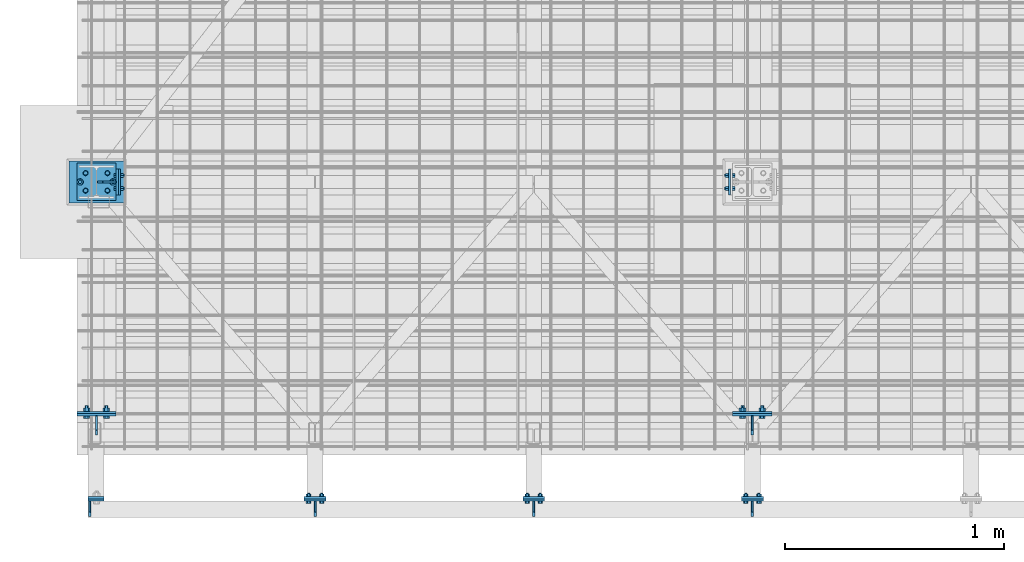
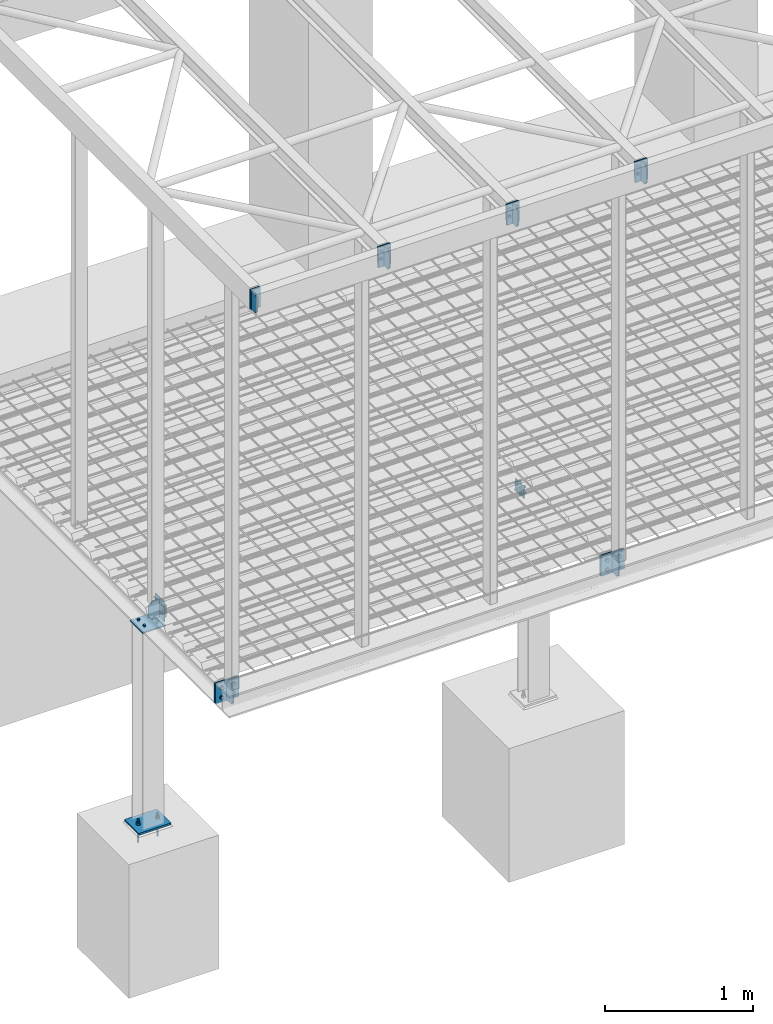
# One storey, part 16 of 26: 24 discrete accessories, 9 mechanical fasteners, 10 elements without a shape of their own.
"""IFC2X3 building model written with IfcOpenShell, lengths in millimetres."""

from ifc_helpers import new_model, si_unit, frame, frame_2d, origin_with_axes, origin_2d_with_axis, place, context, subcontext, project, spatial, polyline, circle_curve, parameter, trimmed, segment, composite_curve, circle, outline, extrude, source, transform, mapped, material, type_object, element, aggregate, save


model = new_model("IFC2X3")

# Units and contexts
model_context = context("Model", 3, precision=1e-05, world=origin_with_axes())
body_context = subcontext(model_context, "Body", "Model", "MODEL_VIEW")
ifc_project = project(units=[si_unit("LENGTHUNIT", "METRE", prefix="MILLI"), si_unit("AREAUNIT", "SQUARE_METRE"), si_unit("VOLUMEUNIT", "CUBIC_METRE"), si_unit("MASSUNIT", "GRAM", prefix="KILO"), si_unit("TIMEUNIT", "SECOND"), si_unit("PLANEANGLEUNIT", "RADIAN"), si_unit("SOLIDANGLEUNIT", "STERADIAN"), si_unit("THERMODYNAMICTEMPERATUREUNIT", "DEGREE_CELSIUS"), si_unit("LUMINOUSINTENSITYUNIT", "LUMEN")], contexts=[model_context])

# Site, building, storey
site_placement = place(None, origin_with_axes())
site = spatial("IfcSite", under=ifc_project, at=site_placement, Name="Undefined", CompositionType="ELEMENT")
building_placement = place(site_placement, origin_with_axes())
building = spatial("IfcBuilding", under=site, at=building_placement, Name="Undefined", CompositionType="ELEMENT")
storey_placement = place(building_placement, origin_with_axes())
storey = spatial("IfcBuildingStorey", under=building, at=storey_placement, Name="Undefined", CompositionType="ELEMENT", Elevation=0.0)

# Assembly, mechanical fastener
assembly_1_placement = place(storey_placement, origin_with_axes())
assembly_1 = element("IfcElementAssembly", 1, at=assembly_1_placement, inside=storey, Name="Steel Assembly", AssemblyPlace="NOTDEFINED", PredefinedType="RIGID_FRAME")
ifc_material_1 = material(Name="Undefined")
discrete_accessory_type_1 = type_object("IfcDiscreteAccessoryType", Name="Bolt assembly")
shared_shape_1 = source(origin_with_axes(), body_context, "Body", "SweptSolid", [
    extrude(circle(Radius=9.0, at=origin_2d_with_axis()), frame((0.0, -15.0, 0.0), z_axis=(0.0, 1.0, 0.0), x_axis=(1.0, 0.0, 0.0)), (0.0, 0.0, 1.0), 15.1),
    extrude(outline(polyline([(7.73649338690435, 0.0), (3.86824669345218, 6.69999980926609), (-3.86824669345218, 6.69999980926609), (-7.73649338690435, 0.0), (-3.86824669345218, -6.69999980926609), (3.86824669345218, -6.69999980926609), (7.73649338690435, 0.0)])), frame((0.0, -147.0, 0.0), z_axis=(0.0, 1.0, 0.0), x_axis=(1.0, 0.0, 0.0)), (0.0, 0.0, 1.0), 132.0),
    extrude(circle(Radius=8.0, at=origin_2d_with_axis()), frame((0.0, -15.0, 0.0), z_axis=(0.0, 1.0, 0.0), x_axis=(1.0, 0.0, 0.0)), (0.0, 0.0, 1.0), 58.0),
    extrude(circle(Radius=15.0, at=origin_2d_with_axis()), frame((0.0, 0.0, 0.0), z_axis=(0.0, 1.0, 0.0), x_axis=(1.0, 0.0, 0.0)), (0.0, 0.0, 1.0), 3.0),
    extrude(outline(polyline([(15.4441197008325, 0.0), (7.72205985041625, 13.3750000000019), (-7.72205985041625, 13.3750000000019), (-15.4441197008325, 0.0), (-7.72205985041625, -13.3750000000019), (7.72205985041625, -13.3750000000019), (15.4441197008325, 0.0)])), frame((0.0, 3.0, 0.0), z_axis=(0.0, 1.0, 0.0), x_axis=(1.0, 0.0, 0.0)), (0.0, 0.0, 1.0), 13.0),
])
mechanical_fastener_1_placement = place(assembly_1_placement, frame((-25.0, 1260.0, -1975.0), z_axis=(0.0, -1.0, 0.0), x_axis=(1.0, 0.0, 0.0)))
mechanical_fastener_1 = element("IfcMechanicalFastener", 2, at=mechanical_fastener_1_placement, type_object=discrete_accessory_type_1, material=ifc_material_1, Name="Bolt assembly", NominalDiameter=16.0, NominalLength=58.0, context=body_context, shape_type="MappedRepresentation", body=[
    mapped(shared_shape_1, transform((0.0, 0.0, 0.0))),
    mapped(shared_shape_1, transform((150.0, 0.0, 0.0))),
])

# Assembly, mechanical fasteners
assembly_2_placement = place(storey_placement, origin_with_axes())
assembly_2 = element("IfcElementAssembly", 3, at=assembly_2_placement, inside=storey, Name="Steel Assembly", AssemblyPlace="NOTDEFINED", PredefinedType="RIGID_FRAME")
shared_shape_2 = source(origin_with_axes(), body_context, "Body", "SweptSolid", [
    extrude(circle(Radius=9.0, at=origin_2d_with_axis()), frame((0.0, -0.1, 0.0), z_axis=(0.0, 1.0, 0.0), x_axis=(1.0, 0.0, 0.0)), (0.0, 0.0, 1.0), 10.1),
    extrude(circle(Radius=9.0, at=origin_2d_with_axis()), frame((0.0, -9.9, 0.0), z_axis=(0.0, 1.0, 0.0), x_axis=(1.0, 0.0, 0.0)), (0.0, 0.0, 1.0), 10.0),
    extrude(outline(polyline([(13.85640646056, 0.0), (6.92820323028, 12.0000000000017), (-6.92820323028, 12.0000000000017), (-13.85640646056, 0.0), (-6.92820323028, -12.0000000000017), (6.92820323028, -12.0000000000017), (13.85640646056, 0.0)])), frame((0.0, -23.0, 0.0), z_axis=(0.0, 1.0, 0.0), x_axis=(1.0, 0.0, 0.0)), (0.0, 0.0, 1.0), 10.0),
    extrude(circle(Radius=8.0, at=origin_2d_with_axis()), frame((0.0, -13.0, 0.0), z_axis=(0.0, 1.0, 0.0), x_axis=(1.0, 0.0, 0.0)), (0.0, 0.0, 1.0), 50.0),
    extrude(circle(Radius=15.0, at=origin_2d_with_axis()), frame((0.0, -13.0, 0.0), z_axis=(0.0, 1.0, 0.0), x_axis=(1.0, 0.0, 0.0)), (0.0, 0.0, 1.0), 3.0),
    extrude(circle(Radius=15.0, at=origin_2d_with_axis()), frame((0.0, 10.0, 0.0), z_axis=(0.0, 1.0, 0.0), x_axis=(1.0, 0.0, 0.0)), (0.0, 0.0, 1.0), 3.0),
    extrude(outline(polyline([(15.4441197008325, 0.0), (7.72205985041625, 13.3750000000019), (-7.72205985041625, 13.3750000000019), (-15.4441197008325, 0.0), (-7.72205985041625, -13.3750000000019), (7.72205985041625, -13.3750000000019), (15.4441197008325, 0.0)])), frame((0.0, 13.0, 0.0), z_axis=(0.0, 1.0, 0.0), x_axis=(1.0, 0.0, 0.0)), (0.0, 0.0, 1.0), 13.0),
])
mechanical_fastener_2_placement = place(assembly_2_placement, frame((5.0, 200.0, -250.0), z_axis=(0.0, 0.0, 1.0), x_axis=(1.0, 0.0, 0.0)))
mechanical_fastener_2 = element("IfcMechanicalFastener", 4, at=mechanical_fastener_2_placement, type_object=discrete_accessory_type_1, material=ifc_material_1, Name="Bolt assembly", NominalDiameter=16.0, NominalLength=50.0, context=body_context, shape_type="MappedRepresentation", body=[
    mapped(shared_shape_2, transform((0.0, 0.0, -40.0))),
    mapped(shared_shape_2, transform((90.0, 0.0, -40.0))),
    mapped(shared_shape_2, transform((0.0, 0.0, 40.0))),
    mapped(shared_shape_2, transform((90.0, 0.0, 40.0))),
])
mechanical_fastener_3_placement = place(assembly_2_placement, frame((3005.0, 200.0, -250.0), z_axis=(0.0, 0.0, 1.0), x_axis=(1.0, 0.0, 0.0)))
mechanical_fastener_3 = element("IfcMechanicalFastener", 5, at=mechanical_fastener_3_placement, type_object=discrete_accessory_type_1, material=ifc_material_1, Name="Bolt assembly", NominalDiameter=16.0, NominalLength=50.0, context=body_context, shape_type="MappedRepresentation", body=[
    mapped(shared_shape_2, transform((0.0, 0.0, -40.0))),
    mapped(shared_shape_2, transform((90.0, 0.0, -40.0))),
    mapped(shared_shape_2, transform((0.0, 0.0, 40.0))),
    mapped(shared_shape_2, transform((90.0, 0.0, 40.0))),
])

# Assembly, discrete accessory
assembly_3_placement = place(storey_placement, origin_with_axes())
assembly_3 = element("IfcElementAssembly", 6, at=assembly_3_placement, inside=storey, Name="Steel Assembly", AssemblyPlace="NOTDEFINED", PredefinedType="RIGID_FRAME")
ifc_material_2 = material(Name="STEEL/S235JR")
discrete_accessory_type_2 = type_object("IfcDiscreteAccessoryType", Name="PLECH")
discrete_accessory_1_placement = place(assembly_3_placement, frame((19.5, -200.0, 3289.5), z_axis=(1.0, 0.0, 0.0), x_axis=(0.0, -1.0, 0.0)))
discrete_accessory_1 = element("IfcDiscreteAccessory", 7, at=discrete_accessory_1_placement, type_object=discrete_accessory_type_2, material=ifc_material_2, Name="PLECH", ObjectType="PL8*70", context=body_context, shape_type="SweptSolid", body=[
    extrude(outline(composite_curve([segment(polyline([(0.0, 0.0), (49.5, 0.0)]), True, "CONTINUOUS"), segment(trimmed(circle_curve(frame_2d((69.5, 0.0), x_axis=(-1.0, 0.0)), 20.0), [parameter(0.0)], [parameter(4.71238898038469)], False, "PARAMETER"), True, "CONTINUOUS"), segment(polyline([(69.5, 20.0), (69.5, 139.0)]), True, "CONTINUOUS"), segment(trimmed(circle_curve(frame_2d((69.5, 159.0), x_axis=(0.0, -1.0)), 20.0), [parameter(0.0)], [parameter(4.71238898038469)], False, "PARAMETER"), True, "CONTINUOUS"), segment(polyline([(49.5, 159.0), (-3.63797880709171e-12, 159.0), (0.0, 0.0)]), True, "DISCONTINUOUS")], self_intersect=False)), frame((0.0, 0.0, -4.0), z_axis=(0.0, 0.0, 1.0), x_axis=(1.0, 0.0, 0.0)), (0.0, 0.0, 1.0), 8.0),
])

assembly_4_placement = place(storey_placement, origin_with_axes())
assembly_4 = element("IfcElementAssembly", 8, at=assembly_4_placement, inside=storey, Name="Steel Assembly", AssemblyPlace="NOTDEFINED", PredefinedType="RIGID_FRAME")
discrete_accessory_2_placement = place(assembly_4_placement, frame((85.0, -185.0, 3130.0), z_axis=(0.0, -1.0, 0.0), x_axis=(0.0, 0.0, 1.0)))
discrete_accessory_2 = element("IfcDiscreteAccessory", 9, at=discrete_accessory_2_placement, type_object=discrete_accessory_type_2, material=ifc_material_2, Name="PLECH", ObjectType="PL10*75", context=body_context, shape_type="SweptSolid", body=[
    extrude(outline(polyline([(0.0, 0.0), (160.0, 0.0), (160.0, 75.0), (0.0, 75.0), (0.0, 0.0)])), frame((0.0, 0.0, -5.0), z_axis=(0.0, 0.0, 1.0), x_axis=(1.0, 0.0, 0.0)), (0.0, 0.0, 1.0), 10.0),
])
aggregate(assembly_4, [discrete_accessory_2])

# Discrete accessory
discrete_accessory_3_placement = place(assembly_3_placement, frame((85.0, -195.0, 3130.0), z_axis=(0.0, -1.0, 0.0), x_axis=(0.0, 0.0, 1.0)))
discrete_accessory_3 = element("IfcDiscreteAccessory", 10, at=discrete_accessory_3_placement, type_object=discrete_accessory_type_2, material=ifc_material_2, Name="PLECH", ObjectType="PL10*75", context=body_context, shape_type="SweptSolid", body=[
    extrude(outline(polyline([(0.0, 0.0), (160.0, 0.0), (160.0, 75.0), (0.0, 75.0), (0.0, 0.0)])), frame((0.0, 0.0, -5.0), z_axis=(0.0, 0.0, 1.0), x_axis=(1.0, 0.0, 0.0)), (0.0, 0.0, 1.0), 10.0),
])

discrete_accessory_4_placement = place(assembly_3_placement, frame((1050.0, -200.0, 3289.5), z_axis=(1.0, 0.0, 0.0), x_axis=(0.0, -1.0, 0.0)))
discrete_accessory_4 = element("IfcDiscreteAccessory", 11, at=discrete_accessory_4_placement, type_object=discrete_accessory_type_2, material=ifc_material_2, Name="PLECH", ObjectType="PL8*70", context=body_context, shape_type="SweptSolid", body=[
    extrude(outline(composite_curve([segment(polyline([(0.0, 0.0), (49.5, 0.0)]), True, "CONTINUOUS"), segment(trimmed(circle_curve(frame_2d((69.5, 0.0), x_axis=(-1.0, 0.0)), 20.0), [parameter(0.0)], [parameter(4.71238898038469)], False, "PARAMETER"), True, "CONTINUOUS"), segment(polyline([(69.5, 20.0), (69.5, 139.0)]), True, "CONTINUOUS"), segment(trimmed(circle_curve(frame_2d((69.5, 159.0), x_axis=(0.0, -1.0)), 20.0), [parameter(0.0)], [parameter(4.71238898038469)], False, "PARAMETER"), True, "CONTINUOUS"), segment(polyline([(49.5, 159.0), (-3.63797880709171e-12, 159.0), (0.0, 0.0)]), True, "DISCONTINUOUS")], self_intersect=False)), frame((0.0, 0.0, -4.0), z_axis=(0.0, 0.0, 1.0), x_axis=(1.0, 0.0, 0.0)), (0.0, 0.0, 1.0), 8.0),
])

# Assembly, discrete accessory
assembly_5_placement = place(storey_placement, origin_with_axes())
assembly_5 = element("IfcElementAssembly", 12, at=assembly_5_placement, inside=storey, Name="Steel Assembly", AssemblyPlace="NOTDEFINED", PredefinedType="RIGID_FRAME")
discrete_accessory_5_placement = place(assembly_5_placement, frame((1000.0, -185.0, 3166.5), z_axis=(0.0, 1.0, 0.0), x_axis=(0.0, 0.0, 1.0)))
discrete_accessory_5 = element("IfcDiscreteAccessory", 13, at=discrete_accessory_5_placement, type_object=discrete_accessory_type_2, material=ifc_material_2, Name="PLECH", ObjectType="PL10*100", context=body_context, shape_type="SweptSolid", body=[
    extrude(outline(polyline([(0.0, 0.0), (127.0, 0.0), (127.0, 100.0), (-9.09494701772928e-13, 100.0), (0.0, 0.0)])), frame((0.0, 0.0, -5.0), z_axis=(0.0, 0.0, 1.0), x_axis=(1.0, 0.0, 0.0)), (0.0, 0.0, 1.0), 10.0),
])
aggregate(assembly_5, [discrete_accessory_5])

# Discrete accessory
discrete_accessory_6_placement = place(assembly_3_placement, frame((1000.0, -195.0, 3127.5), z_axis=(0.0, 1.0, 0.0), x_axis=(0.0, 0.0, 1.0)))
discrete_accessory_6 = element("IfcDiscreteAccessory", 14, at=discrete_accessory_6_placement, type_object=discrete_accessory_type_2, material=ifc_material_2, Name="PLECH", ObjectType="PL10*100", context=body_context, shape_type="SweptSolid", body=[
    extrude(outline(polyline([(0.0, 0.0), (166.000015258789, 0.0), (166.000015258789, 100.0), (-9.09494701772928e-13, 100.0), (0.0, 0.0)])), frame((0.0, 0.0, -5.0), z_axis=(0.0, 0.0, 1.0), x_axis=(1.0, 0.0, 0.0)), (0.0, 0.0, 1.0), 10.0),
])

discrete_accessory_7_placement = place(assembly_3_placement, frame((2050.0, -200.0, 3289.5), z_axis=(1.0, 0.0, 0.0), x_axis=(0.0, -1.0, 0.0)))
discrete_accessory_7 = element("IfcDiscreteAccessory", 15, at=discrete_accessory_7_placement, type_object=discrete_accessory_type_2, material=ifc_material_2, Name="PLECH", ObjectType="PL8*70", context=body_context, shape_type="SweptSolid", body=[
    extrude(outline(composite_curve([segment(polyline([(0.0, 0.0), (49.5, 0.0)]), True, "CONTINUOUS"), segment(trimmed(circle_curve(frame_2d((69.5, 0.0), x_axis=(-1.0, 0.0)), 20.0), [parameter(0.0)], [parameter(4.71238898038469)], False, "PARAMETER"), True, "CONTINUOUS"), segment(polyline([(69.5, 20.0), (69.5, 139.0)]), True, "CONTINUOUS"), segment(trimmed(circle_curve(frame_2d((69.5, 159.0), x_axis=(0.0, -1.0)), 20.0), [parameter(0.0)], [parameter(4.71238898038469)], False, "PARAMETER"), True, "CONTINUOUS"), segment(polyline([(49.5, 159.0), (-3.63797880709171e-12, 159.0), (0.0, 0.0)]), True, "DISCONTINUOUS")], self_intersect=False)), frame((0.0, 0.0, -4.0), z_axis=(0.0, 0.0, 1.0), x_axis=(1.0, 0.0, 0.0)), (0.0, 0.0, 1.0), 8.0),
])

# Assembly, discrete accessory
assembly_6_placement = place(storey_placement, origin_with_axes())
assembly_6 = element("IfcElementAssembly", 16, at=assembly_6_placement, inside=storey, Name="Steel Assembly", AssemblyPlace="NOTDEFINED", PredefinedType="RIGID_FRAME")
discrete_accessory_8_placement = place(assembly_6_placement, frame((2000.0, -185.0, 3166.5), z_axis=(0.0, 1.0, 0.0), x_axis=(0.0, 0.0, 1.0)))
discrete_accessory_8 = element("IfcDiscreteAccessory", 17, at=discrete_accessory_8_placement, type_object=discrete_accessory_type_2, material=ifc_material_2, Name="PLECH", ObjectType="PL10*100", context=body_context, shape_type="SweptSolid", body=[
    extrude(outline(polyline([(0.0, 0.0), (127.0, 0.0), (127.0, 100.0), (-9.09494701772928e-13, 100.0), (0.0, 0.0)])), frame((0.0, 0.0, -5.0), z_axis=(0.0, 0.0, 1.0), x_axis=(1.0, 0.0, 0.0)), (0.0, 0.0, 1.0), 10.0),
])
aggregate(assembly_6, [discrete_accessory_8])

# Discrete accessory
discrete_accessory_9_placement = place(assembly_3_placement, frame((2000.0, -195.0, 3127.5), z_axis=(0.0, 1.0, 0.0), x_axis=(0.0, 0.0, 1.0)))
discrete_accessory_9 = element("IfcDiscreteAccessory", 18, at=discrete_accessory_9_placement, type_object=discrete_accessory_type_2, material=ifc_material_2, Name="PLECH", ObjectType="PL10*100", context=body_context, shape_type="SweptSolid", body=[
    extrude(outline(polyline([(0.0, 0.0), (166.000015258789, 0.0), (166.000015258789, 100.0), (-9.09494701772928e-13, 100.0), (0.0, 0.0)])), frame((0.0, 0.0, -5.0), z_axis=(0.0, 0.0, 1.0), x_axis=(1.0, 0.0, 0.0)), (0.0, 0.0, 1.0), 10.0),
])

discrete_accessory_10_placement = place(assembly_1_placement, frame((140.0, 1346.0, -345.0), z_axis=(0.0, 0.0, 1.0), x_axis=(-1.0, 0.0, 0.0)))
discrete_accessory_10 = element("IfcDiscreteAccessory", 19, at=discrete_accessory_10_placement, type_object=discrete_accessory_type_2, material=ifc_material_2, Name="PLECH", ObjectType="PL10*172", context=body_context, shape_type="SweptSolid", body=[
    extrude(outline(polyline([(0.0, 0.0), (180.0, 0.0), (180.0, 172.0), (0.0, 172.0), (0.0, 0.0)])), frame((0.0, 0.0, -5.0), z_axis=(0.0, 0.0, 1.0), x_axis=(1.0, 0.0, 0.0)), (0.0, 0.0, 1.0), 10.0),
])

discrete_accessory_11_placement = place(assembly_2_placement, frame((-40.0, 195.0, -168.0), z_axis=(0.0, 1.0, 0.0), x_axis=(1.0, 0.0, 0.0)))
discrete_accessory_11 = element("IfcDiscreteAccessory", 20, at=discrete_accessory_11_placement, type_object=discrete_accessory_type_2, material=ifc_material_2, Name="PLECH", ObjectType="PL10*164", context=body_context, shape_type="SweptSolid", body=[
    extrude(outline(polyline([(0.0, 0.0), (180.0, 0.0), (180.0, 164.0), (0.0, 164.0), (0.0, 0.0)])), frame((0.0, 0.0, -5.0), z_axis=(0.0, 0.0, 1.0), x_axis=(1.0, 0.0, 0.0)), (0.0, 0.0, 1.0), 10.0),
])

discrete_accessory_12_placement = place(assembly_2_placement, frame((50.0, 190.0, -174.0), z_axis=(1.0, 0.0, 0.0), x_axis=(0.0, -1.0, 0.0)))
discrete_accessory_12 = element("IfcDiscreteAccessory", 21, at=discrete_accessory_12_placement, type_object=discrete_accessory_type_2, material=ifc_material_2, Name="PLECH", ObjectType="PL8*86", context=body_context, shape_type="SweptSolid", body=[
    extrude(outline(composite_curve([segment(polyline([(0.0, 0.0), (65.75, 0.0)]), True, "CONTINUOUS"), segment(trimmed(circle_curve(frame_2d((85.75, 0.0), x_axis=(-1.0, 0.0)), 20.0), [parameter(0.0)], [parameter(4.71238898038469)], False, "PARAMETER"), True, "CONTINUOUS"), segment(polyline([(85.75, 20.0), (85.75, 132.0)]), True, "CONTINUOUS"), segment(trimmed(circle_curve(frame_2d((85.75, 152.0), x_axis=(0.0, -1.0)), 20.0), [parameter(0.0)], [parameter(4.71238898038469)], False, "PARAMETER"), True, "CONTINUOUS"), segment(polyline([(65.75, 152.0), (0.0, 152.0), (0.0, 0.0)]), True, "DISCONTINUOUS")], self_intersect=False)), frame((0.0, 0.0, -4.0), z_axis=(0.0, 0.0, 1.0), x_axis=(1.0, 0.0, 0.0)), (0.0, 0.0, 1.0), 8.0),
])

# Assembly, discrete accessory
assembly_7_placement = place(storey_placement, origin_with_axes())
assembly_7 = element("IfcElementAssembly", 22, at=assembly_7_placement, inside=storey, Name="Steel Assembly", AssemblyPlace="NOTDEFINED", PredefinedType="RIGID_FRAME")
discrete_accessory_13_placement = place(assembly_7_placement, frame((-40.0, 205.0, -168.0), z_axis=(0.0, 1.0, 0.0), x_axis=(1.0, 0.0, 0.0)))
discrete_accessory_13 = element("IfcDiscreteAccessory", 23, at=discrete_accessory_13_placement, type_object=discrete_accessory_type_2, material=ifc_material_2, Name="PLECH", ObjectType="PL10*164", context=body_context, shape_type="SweptSolid", body=[
    extrude(outline(polyline([(0.0, 0.0), (180.0, 0.0), (180.0, 164.0), (0.0, 164.0), (0.0, 0.0)])), frame((0.0, 0.0, -5.0), z_axis=(0.0, 0.0, 1.0), x_axis=(1.0, 0.0, 0.0)), (0.0, 0.0, 1.0), 10.0),
])

assembly_8_placement = place(storey_placement, origin_with_axes())
assembly_8 = element("IfcElementAssembly", 24, at=assembly_8_placement, inside=storey, Name="Steel Assembly", AssemblyPlace="NOTDEFINED", PredefinedType="RIGID_FRAME")
discrete_accessory_14_placement = place(assembly_8_placement, frame((155.0, 1200.0, -299.0), z_axis=(-1.0, 0.0, 0.0), x_axis=(0.0, 0.0, 1.0)))
discrete_accessory_14 = element("IfcDiscreteAccessory", 25, at=discrete_accessory_14_placement, type_object=discrete_accessory_type_2, material=ifc_material_2, Name="PLECH", ObjectType="PL10*98", context=body_context, shape_type="SweptSolid", body=[
    extrude(outline(polyline([(0.0, 0.0), (98.0, 4.54747350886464e-13), (98.0, 120.0), (0.0, 120.0), (0.0, 0.0)])), frame((0.0, 0.0, -5.0), z_axis=(0.0, 0.0, 1.0), x_axis=(1.0, 0.0, 0.0)), (0.0, 0.0, 1.0), 10.0),
])

# Discrete accessory
discrete_accessory_15_placement = place(assembly_7_placement, frame((140.0, 1260.0, -174.0), z_axis=(0.0, -1.0, 0.0), x_axis=(-1.0, 0.0, 0.0)))
discrete_accessory_15 = element("IfcDiscreteAccessory", 26, at=discrete_accessory_15_placement, type_object=discrete_accessory_type_2, material=ifc_material_2, Name="PLECH", ObjectType="PL8*86", context=body_context, shape_type="SweptSolid", body=[
    extrude(outline(composite_curve([segment(polyline([(0.0, 0.0), (60.5, 0.0)]), True, "CONTINUOUS"), segment(trimmed(circle_curve(frame_2d((85.5, 0.0), x_axis=(-1.0, 0.0)), 25.0), [parameter(0.0)], [parameter(4.71238898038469)], False, "PARAMETER"), True, "CONTINUOUS"), segment(polyline([(85.5, 25.0), (85.5, 127.0)]), True, "CONTINUOUS"), segment(trimmed(circle_curve(frame_2d((85.5, 152.0), x_axis=(0.0, -1.0)), 25.0), [parameter(0.0)], [parameter(4.71238898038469)], False, "PARAMETER"), True, "CONTINUOUS"), segment(polyline([(60.5, 152.0), (0.0, 152.0), (0.0, 0.0)]), True, "DISCONTINUOUS")], self_intersect=False)), frame((0.0, 0.0, -4.0), z_axis=(0.0, 0.0, 1.0), x_axis=(1.0, 0.0, 0.0)), (0.0, 0.0, 1.0), 8.0),
])

discrete_accessory_16_placement = place(assembly_7_placement, frame((145.0, 1200.0, -332.0), z_axis=(-1.0, 0.0, 0.0), x_axis=(0.0, 0.0, 1.0)))
discrete_accessory_16 = element("IfcDiscreteAccessory", 27, at=discrete_accessory_16_placement, type_object=discrete_accessory_type_2, material=ifc_material_2, Name="PLECH", ObjectType="PL10*120", context=body_context, shape_type="SweptSolid", body=[
    extrude(outline(polyline([(0.0, 0.0), (164.0, 4.54747350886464e-13), (164.0, 120.0), (0.0, 120.0), (0.0, 0.0)])), frame((0.0, 0.0, -5.0), z_axis=(0.0, 0.0, 1.0), x_axis=(1.0, 0.0, 0.0)), (0.0, 0.0, 1.0), 10.0),
])

discrete_accessory_17_placement = place(assembly_2_placement, frame((2960.0, 195.0, -168.0), z_axis=(0.0, 1.0, 0.0), x_axis=(1.0, 0.0, 0.0)))
discrete_accessory_17 = element("IfcDiscreteAccessory", 28, at=discrete_accessory_17_placement, type_object=discrete_accessory_type_2, material=ifc_material_2, Name="PLECH", ObjectType="PL10*164", context=body_context, shape_type="SweptSolid", body=[
    extrude(outline(polyline([(0.0, 0.0), (180.0, 0.0), (180.0, 164.0), (0.0, 164.0), (0.0, 0.0)])), frame((0.0, 0.0, -5.0), z_axis=(0.0, 0.0, 1.0), x_axis=(1.0, 0.0, 0.0)), (0.0, 0.0, 1.0), 10.0),
])

discrete_accessory_18_placement = place(assembly_2_placement, frame((3050.0, 190.0, -174.0), z_axis=(1.0, 0.0, 0.0), x_axis=(0.0, -1.0, 0.0)))
discrete_accessory_18 = element("IfcDiscreteAccessory", 29, at=discrete_accessory_18_placement, type_object=discrete_accessory_type_2, material=ifc_material_2, Name="PLECH", ObjectType="PL8*86", context=body_context, shape_type="SweptSolid", body=[
    extrude(outline(composite_curve([segment(polyline([(0.0, 0.0), (65.75, 0.0)]), True, "CONTINUOUS"), segment(trimmed(circle_curve(frame_2d((85.75, 0.0), x_axis=(-1.0, 0.0)), 20.0), [parameter(0.0)], [parameter(4.71238898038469)], False, "PARAMETER"), True, "CONTINUOUS"), segment(polyline([(85.75, 20.0), (85.75, 132.0)]), True, "CONTINUOUS"), segment(trimmed(circle_curve(frame_2d((85.75, 152.0), x_axis=(0.0, -1.0)), 20.0), [parameter(0.0)], [parameter(4.71238898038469)], False, "PARAMETER"), True, "CONTINUOUS"), segment(polyline([(65.75, 152.0), (0.0, 152.0), (0.0, 0.0)]), True, "DISCONTINUOUS")], self_intersect=False)), frame((0.0, 0.0, -4.0), z_axis=(0.0, 0.0, 1.0), x_axis=(1.0, 0.0, 0.0)), (0.0, 0.0, 1.0), 8.0),
])

aggregate(assembly_2, [mechanical_fastener_2, discrete_accessory_11, discrete_accessory_12, mechanical_fastener_3, discrete_accessory_17, discrete_accessory_18])

# Assembly, discrete accessory
assembly_9_placement = place(storey_placement, origin_with_axes())
assembly_9 = element("IfcElementAssembly", 30, at=assembly_9_placement, inside=storey, Name="Steel Assembly", AssemblyPlace="NOTDEFINED", PredefinedType="RIGID_FRAME")
discrete_accessory_19_placement = place(assembly_9_placement, frame((2960.0, 205.0, -168.0), z_axis=(0.0, 1.0, 0.0), x_axis=(1.0, 0.0, 0.0)))
discrete_accessory_19 = element("IfcDiscreteAccessory", 31, at=discrete_accessory_19_placement, type_object=discrete_accessory_type_2, material=ifc_material_2, Name="PLECH", ObjectType="PL10*164", context=body_context, shape_type="SweptSolid", body=[
    extrude(outline(polyline([(0.0, 0.0), (180.0, 0.0), (180.0, 164.0), (0.0, 164.0), (0.0, 0.0)])), frame((0.0, 0.0, -5.0), z_axis=(0.0, 0.0, 1.0), x_axis=(1.0, 0.0, 0.0)), (0.0, 0.0, 1.0), 10.0),
])

# Discrete accessory
discrete_accessory_20_placement = place(assembly_3_placement, frame((3050.0, -200.0, 3289.5), z_axis=(1.0, 0.0, 0.0), x_axis=(0.0, -1.0, 0.0)))
discrete_accessory_20 = element("IfcDiscreteAccessory", 32, at=discrete_accessory_20_placement, type_object=discrete_accessory_type_2, material=ifc_material_2, Name="PLECH", ObjectType="PL8*70", context=body_context, shape_type="SweptSolid", body=[
    extrude(outline(composite_curve([segment(polyline([(0.0, 0.0), (49.5, 0.0)]), True, "CONTINUOUS"), segment(trimmed(circle_curve(frame_2d((69.5, 0.0), x_axis=(-1.0, 0.0)), 20.0), [parameter(0.0)], [parameter(4.71238898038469)], False, "PARAMETER"), True, "CONTINUOUS"), segment(polyline([(69.5, 20.0), (69.5, 139.0)]), True, "CONTINUOUS"), segment(trimmed(circle_curve(frame_2d((69.5, 159.0), x_axis=(0.0, -1.0)), 20.0), [parameter(0.0)], [parameter(4.71238898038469)], False, "PARAMETER"), True, "CONTINUOUS"), segment(polyline([(49.5, 159.0), (-3.63797880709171e-12, 159.0), (0.0, 0.0)]), True, "DISCONTINUOUS")], self_intersect=False)), frame((0.0, 0.0, -4.0), z_axis=(0.0, 0.0, 1.0), x_axis=(1.0, 0.0, 0.0)), (0.0, 0.0, 1.0), 8.0),
])

# Assembly, discrete accessory
assembly_10_placement = place(storey_placement, origin_with_axes())
assembly_10 = element("IfcElementAssembly", 33, at=assembly_10_placement, inside=storey, Name="Steel Assembly", AssemblyPlace="NOTDEFINED", PredefinedType="RIGID_FRAME")
discrete_accessory_21_placement = place(assembly_10_placement, frame((3000.0, -185.0, 3166.5), z_axis=(0.0, 1.0, 0.0), x_axis=(0.0, 0.0, 1.0)))
discrete_accessory_21 = element("IfcDiscreteAccessory", 34, at=discrete_accessory_21_placement, type_object=discrete_accessory_type_2, material=ifc_material_2, Name="PLECH", ObjectType="PL10*100", context=body_context, shape_type="SweptSolid", body=[
    extrude(outline(polyline([(0.0, 0.0), (127.0, 0.0), (127.0, 100.0), (-9.09494701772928e-13, 100.0), (0.0, 0.0)])), frame((0.0, 0.0, -5.0), z_axis=(0.0, 0.0, 1.0), x_axis=(1.0, 0.0, 0.0)), (0.0, 0.0, 1.0), 10.0),
])
aggregate(assembly_10, [discrete_accessory_21])

# Discrete accessory
discrete_accessory_22_placement = place(assembly_3_placement, frame((3000.0, -195.0, 3127.5), z_axis=(0.0, 1.0, 0.0), x_axis=(0.0, 0.0, 1.0)))
discrete_accessory_22 = element("IfcDiscreteAccessory", 35, at=discrete_accessory_22_placement, type_object=discrete_accessory_type_2, material=ifc_material_2, Name="PLECH", ObjectType="PL10*100", context=body_context, shape_type="SweptSolid", body=[
    extrude(outline(polyline([(0.0, 0.0), (166.000015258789, 0.0), (166.000015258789, 100.0), (-9.09494701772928e-13, 100.0), (0.0, 0.0)])), frame((0.0, 0.0, -5.0), z_axis=(0.0, 0.0, 1.0), x_axis=(1.0, 0.0, 0.0)), (0.0, 0.0, 1.0), 10.0),
])

discrete_accessory_23_placement = place(assembly_8_placement, frame((2945.0, 1200.0, -299.0), z_axis=(-1.0, 0.0, 0.0), x_axis=(0.0, 0.0, 1.0)))
discrete_accessory_23 = element("IfcDiscreteAccessory", 36, at=discrete_accessory_23_placement, type_object=discrete_accessory_type_2, material=ifc_material_2, Name="PLECH", ObjectType="PL10*98", context=body_context, shape_type="SweptSolid", body=[
    extrude(outline(polyline([(0.0, 0.0), (98.0, 4.54747350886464e-13), (98.0, 120.0), (0.0, 120.0), (0.0, 0.0)])), frame((0.0, 0.0, -5.0), z_axis=(0.0, 0.0, 1.0), x_axis=(1.0, 0.0, 0.0)), (0.0, 0.0, 1.0), 10.0),
])

aggregate(assembly_8, [discrete_accessory_14, discrete_accessory_23])

discrete_accessory_24_placement = place(assembly_1_placement, frame((175.0, 1356.0, -1982.5), z_axis=(0.0, 0.0, 1.0), x_axis=(-1.0, 0.0, 0.0)))
discrete_accessory_24 = element("IfcDiscreteAccessory", 37, at=discrete_accessory_24_placement, type_object=discrete_accessory_type_2, material=ifc_material_2, Name="PLECH", ObjectType="PL15*192", context=body_context, shape_type="SweptSolid", body=[
    extrude(outline(polyline([(0.0, 0.0), (250.0, 0.0), (250.0, 192.0), (0.0, 192.0), (0.0, 0.0)])), frame((0.0, 0.0, -7.5), z_axis=(0.0, 0.0, 1.0), x_axis=(1.0, 0.0, 0.0)), (0.0, 0.0, 1.0), 15.0),
])

# Mechanical fastener
shared_shape_3 = source(origin_with_axes(), body_context, "Body", "SweptSolid", [
    extrude(circle(Radius=6.5, at=origin_2d_with_axis()), frame((0.0, -13.9, 0.0), z_axis=(0.0, 1.0, 0.0), x_axis=(1.0, 0.0, 0.0)), (0.0, 0.0, 1.0), 14.0),
    extrude(circle(Radius=6.5, at=origin_2d_with_axis()), frame((0.0, -0.1, 0.0), z_axis=(0.0, 1.0, 0.0), x_axis=(1.0, 0.0, 0.0)), (0.0, 0.0, 1.0), 10.1),
    extrude(outline(polyline([(10.39230484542, 0.0), (5.19615242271, 9.00000000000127), (-5.19615242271, 9.00000000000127), (-10.39230484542, 0.0), (-5.19615242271, -9.00000000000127), (5.19615242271, -9.00000000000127), (10.39230484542, 0.0)])), frame((0.0, -24.0, 0.0), z_axis=(0.0, 1.0, 0.0), x_axis=(1.0, 0.0, 0.0)), (0.0, 0.0, 1.0), 7.5),
    extrude(circle(Radius=6.0, at=origin_2d_with_axis()), frame((0.0, -16.5, 0.0), z_axis=(0.0, 1.0, 0.0), x_axis=(1.0, 0.0, 0.0)), (0.0, 0.0, 1.0), 45.0),
    extrude(circle(Radius=12.0, at=origin_2d_with_axis()), frame((0.0, -16.5, 0.0), z_axis=(0.0, 1.0, 0.0), x_axis=(1.0, 0.0, 0.0)), (0.0, 0.0, 1.0), 2.5),
    extrude(circle(Radius=12.0, at=origin_2d_with_axis()), frame((0.0, 10.0, 0.0), z_axis=(0.0, 1.0, 0.0), x_axis=(1.0, 0.0, 0.0)), (0.0, 0.0, 1.0), 2.5),
    extrude(outline(polyline([(10.96965511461, 0.0), (5.484827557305, 9.50000000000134), (-5.484827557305, 9.50000000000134), (-10.96965511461, 0.0), (-5.484827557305, -9.50000000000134), (5.484827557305, -9.50000000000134), (10.96965511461, 0.0)])), frame((0.0, 12.5, 0.0), z_axis=(0.0, 1.0, 0.0), x_axis=(1.0, 0.0, 0.0)), (0.0, 0.0, 1.0), 10.0),
])
mechanical_fastener_4_placement = place(assembly_1_placement, frame((0.0, 1260.0, -340.0), z_axis=(0.0, 1.0, 0.0), x_axis=(1.0, 0.0, 0.0)))
mechanical_fastener_4 = element("IfcMechanicalFastener", 38, at=mechanical_fastener_4_placement, type_object=discrete_accessory_type_1, material=ifc_material_1, Name="Bolt assembly", NominalDiameter=12.0, NominalLength=45.0, context=body_context, shape_type="MappedRepresentation", body=[
    mapped(shared_shape_3, transform((0.0, 0.0, -40.0))),
    mapped(shared_shape_3, transform((100.0, 0.0, -40.0))),
    mapped(shared_shape_3, transform((0.0, 0.0, 40.0))),
    mapped(shared_shape_3, transform((100.0, 0.0, 40.0))),
])

aggregate(assembly_1, [mechanical_fastener_1, mechanical_fastener_4, discrete_accessory_10, discrete_accessory_24])

shared_shape_4 = source(origin_with_axes(), body_context, "Body", "SweptSolid", [
    extrude(circle(Radius=6.5, at=origin_2d_with_axis()), frame((0.0, -0.1, 0.0), z_axis=(0.0, 1.0, 0.0), x_axis=(1.0, 0.0, 0.0)), (0.0, 0.0, 1.0), 10.1),
    extrude(circle(Radius=6.5, at=origin_2d_with_axis()), frame((0.0, -9.9, 0.0), z_axis=(0.0, 1.0, 0.0), x_axis=(1.0, 0.0, 0.0)), (0.0, 0.0, 1.0), 10.0),
    extrude(outline(polyline([(10.96965511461, 0.0), (5.484827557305, 9.50000000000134), (-5.484827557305, 9.50000000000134), (-10.96965511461, 0.0), (-5.484827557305, -9.50000000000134), (5.484827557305, -9.50000000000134), (10.96965511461, 0.0)])), frame((0.0, -20.0, 0.0), z_axis=(0.0, 1.0, 0.0), x_axis=(1.0, 0.0, 0.0)), (0.0, 0.0, 1.0), 7.5),
    extrude(circle(Radius=6.0, at=origin_2d_with_axis()), frame((0.0, -12.5, 0.0), z_axis=(0.0, 1.0, 0.0), x_axis=(1.0, 0.0, 0.0)), (0.0, 0.0, 1.0), 40.0),
    extrude(circle(Radius=12.0, at=origin_2d_with_axis()), frame((0.0, -12.5, 0.0), z_axis=(0.0, 1.0, 0.0), x_axis=(1.0, 0.0, 0.0)), (0.0, 0.0, 1.0), 2.5),
    extrude(circle(Radius=12.0, at=origin_2d_with_axis()), frame((0.0, 10.0, 0.0), z_axis=(0.0, 1.0, 0.0), x_axis=(1.0, 0.0, 0.0)), (0.0, 0.0, 1.0), 2.5),
    extrude(outline(polyline([(10.96965511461, 0.0), (5.484827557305, 9.50000000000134), (-5.484827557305, 9.50000000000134), (-10.96965511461, 0.0), (-5.484827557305, -9.50000000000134), (5.484827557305, -9.50000000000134), (10.96965511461, 0.0)])), frame((0.0, 12.5, 0.0), z_axis=(0.0, 1.0, 0.0), x_axis=(1.0, 0.0, 0.0)), (0.0, 0.0, 1.0), 10.0),
])
mechanical_fastener_5_placement = place(assembly_3_placement, frame((1020.0, -190.0, 3230.0), z_axis=(0.0, 0.0, 1.0), x_axis=(1.0, 0.0, 0.0)))
mechanical_fastener_5 = element("IfcMechanicalFastener", 39, at=mechanical_fastener_5_placement, type_object=discrete_accessory_type_1, material=ifc_material_1, Name="Bolt assembly", NominalDiameter=12.0, NominalLength=40.0, context=body_context, shape_type="MappedRepresentation", body=[
    mapped(shared_shape_4, transform((0.0, 0.0, 30.0))),
    mapped(shared_shape_4, transform((60.0, 0.0, 30.0))),
    mapped(shared_shape_4, transform((0.0, 0.0, -30.0))),
    mapped(shared_shape_4, transform((60.0, 0.0, -30.0))),
])

mechanical_fastener_6_placement = place(assembly_3_placement, frame((2020.0, -190.0, 3230.0), z_axis=(0.0, 0.0, 1.0), x_axis=(1.0, 0.0, 0.0)))
mechanical_fastener_6 = element("IfcMechanicalFastener", 40, at=mechanical_fastener_6_placement, type_object=discrete_accessory_type_1, material=ifc_material_1, Name="Bolt assembly", NominalDiameter=12.0, NominalLength=40.0, context=body_context, shape_type="MappedRepresentation", body=[
    mapped(shared_shape_4, transform((0.0, 0.0, 30.0))),
    mapped(shared_shape_4, transform((60.0, 0.0, 30.0))),
    mapped(shared_shape_4, transform((0.0, 0.0, -30.0))),
    mapped(shared_shape_4, transform((60.0, 0.0, -30.0))),
])

mechanical_fastener_7_placement = place(assembly_3_placement, frame((3020.0, -190.0, 3230.0), z_axis=(0.0, 0.0, 1.0), x_axis=(1.0, 0.0, 0.0)))
mechanical_fastener_7 = element("IfcMechanicalFastener", 41, at=mechanical_fastener_7_placement, type_object=discrete_accessory_type_1, material=ifc_material_1, Name="Bolt assembly", NominalDiameter=12.0, NominalLength=40.0, context=body_context, shape_type="MappedRepresentation", body=[
    mapped(shared_shape_4, transform((0.0, 0.0, 30.0))),
    mapped(shared_shape_4, transform((60.0, 0.0, 30.0))),
    mapped(shared_shape_4, transform((0.0, 0.0, -30.0))),
    mapped(shared_shape_4, transform((60.0, 0.0, -30.0))),
])

aggregate(assembly_3, [discrete_accessory_1, discrete_accessory_3, mechanical_fastener_5, discrete_accessory_4, discrete_accessory_6, mechanical_fastener_6, discrete_accessory_7, discrete_accessory_9, mechanical_fastener_7, discrete_accessory_20, discrete_accessory_22])

shared_shape_5 = source(origin_with_axes(), body_context, "Body", "SweptSolid", [
    extrude(circle(Radius=6.5, at=origin_2d_with_axis()), frame((0.0, -4.1, 0.0), z_axis=(0.0, 1.0, 0.0), x_axis=(1.0, 0.0, 0.0)), (0.0, 0.0, 1.0), 10.1),
    extrude(circle(Radius=6.5, at=origin_2d_with_axis()), frame((0.0, -13.9, 0.0), z_axis=(0.0, 1.0, 0.0), x_axis=(1.0, 0.0, 0.0)), (0.0, 0.0, 1.0), 10.0),
    extrude(outline(polyline([(10.39230484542, 0.0), (5.19615242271, 9.00000000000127), (-5.19615242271, 9.00000000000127), (-10.39230484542, 0.0), (-5.19615242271, -9.00000000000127), (5.19615242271, -9.00000000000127), (10.39230484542, 0.0)])), frame((0.0, -24.0, 0.0), z_axis=(0.0, 1.0, 0.0), x_axis=(1.0, 0.0, 0.0)), (0.0, 0.0, 1.0), 7.5),
    extrude(circle(Radius=6.0, at=origin_2d_with_axis()), frame((0.0, -16.5, 0.0), z_axis=(0.0, 1.0, 0.0), x_axis=(1.0, 0.0, 0.0)), (0.0, 0.0, 1.0), 40.0),
    extrude(circle(Radius=12.0, at=origin_2d_with_axis()), frame((0.0, -16.5, 0.0), z_axis=(0.0, 1.0, 0.0), x_axis=(1.0, 0.0, 0.0)), (0.0, 0.0, 1.0), 2.5),
    extrude(circle(Radius=12.0, at=origin_2d_with_axis()), frame((0.0, 6.0, 0.0), z_axis=(0.0, 1.0, 0.0), x_axis=(1.0, 0.0, 0.0)), (0.0, 0.0, 1.0), 2.5),
    extrude(outline(polyline([(10.96965511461, 0.0), (5.484827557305, 9.50000000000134), (-5.484827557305, 9.50000000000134), (-10.96965511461, 0.0), (-5.484827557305, -9.50000000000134), (5.484827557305, -9.50000000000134), (10.96965511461, 0.0)])), frame((0.0, 8.5, 0.0), z_axis=(0.0, 1.0, 0.0), x_axis=(1.0, 0.0, 0.0)), (0.0, 0.0, 1.0), 10.0),
])
mechanical_fastener_8_placement = place(assembly_7_placement, frame((154.0, 1260.0, -225.0), z_axis=(0.0, -1.0, 0.0), x_axis=(0.0, 0.0, -1.0)))
mechanical_fastener_8 = element("IfcMechanicalFastener", 42, at=mechanical_fastener_8_placement, type_object=discrete_accessory_type_1, material=ifc_material_1, Name="Bolt assembly", NominalDiameter=12.0, NominalLength=40.0, context=body_context, shape_type="MappedRepresentation", body=[
    mapped(shared_shape_5, transform((0.0, 0.0, 30.0))),
    mapped(shared_shape_5, transform((50.0, 0.0, 30.0))),
    mapped(shared_shape_5, transform((0.0, 0.0, -30.0))),
    mapped(shared_shape_5, transform((50.0, 0.0, -30.0))),
])

aggregate(assembly_7, [discrete_accessory_13, mechanical_fastener_8, discrete_accessory_15, discrete_accessory_16])

mechanical_fastener_9_placement = place(assembly_9_placement, frame((2946.0, 1260.0, -225.0), z_axis=(0.0, 1.0, 0.0), x_axis=(0.0, 0.0, -1.0)))
mechanical_fastener_9 = element("IfcMechanicalFastener", 43, at=mechanical_fastener_9_placement, type_object=discrete_accessory_type_1, material=ifc_material_1, Name="Bolt assembly", NominalDiameter=12.0, NominalLength=40.0, context=body_context, shape_type="MappedRepresentation", body=[
    mapped(shared_shape_5, transform((0.0, 0.0, -30.0))),
    mapped(shared_shape_5, transform((50.0, 0.0, -30.0))),
    mapped(shared_shape_5, transform((0.0, 0.0, 30.0))),
    mapped(shared_shape_5, transform((50.0, 0.0, 30.0))),
])

aggregate(assembly_9, [discrete_accessory_19, mechanical_fastener_9])

save(model, "model.ifc")
